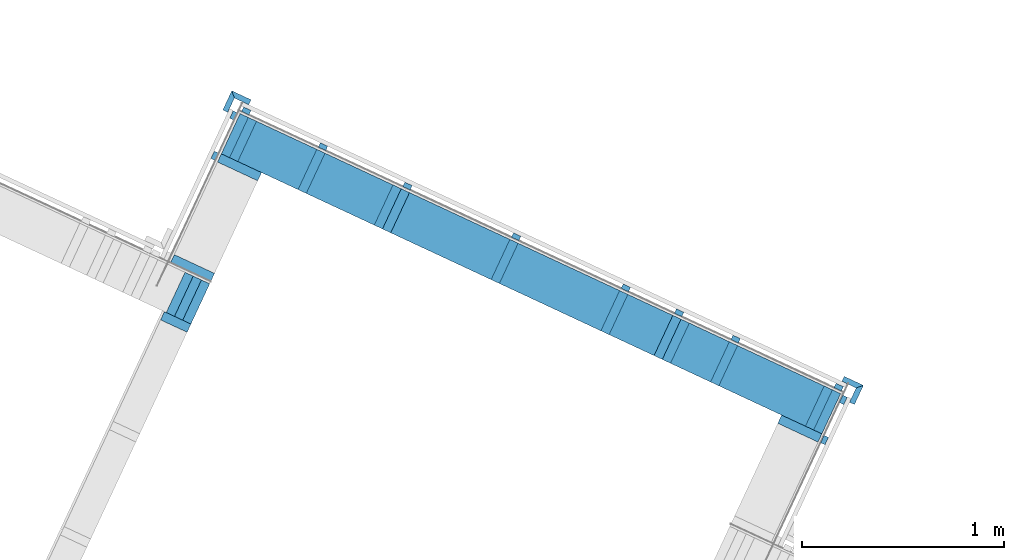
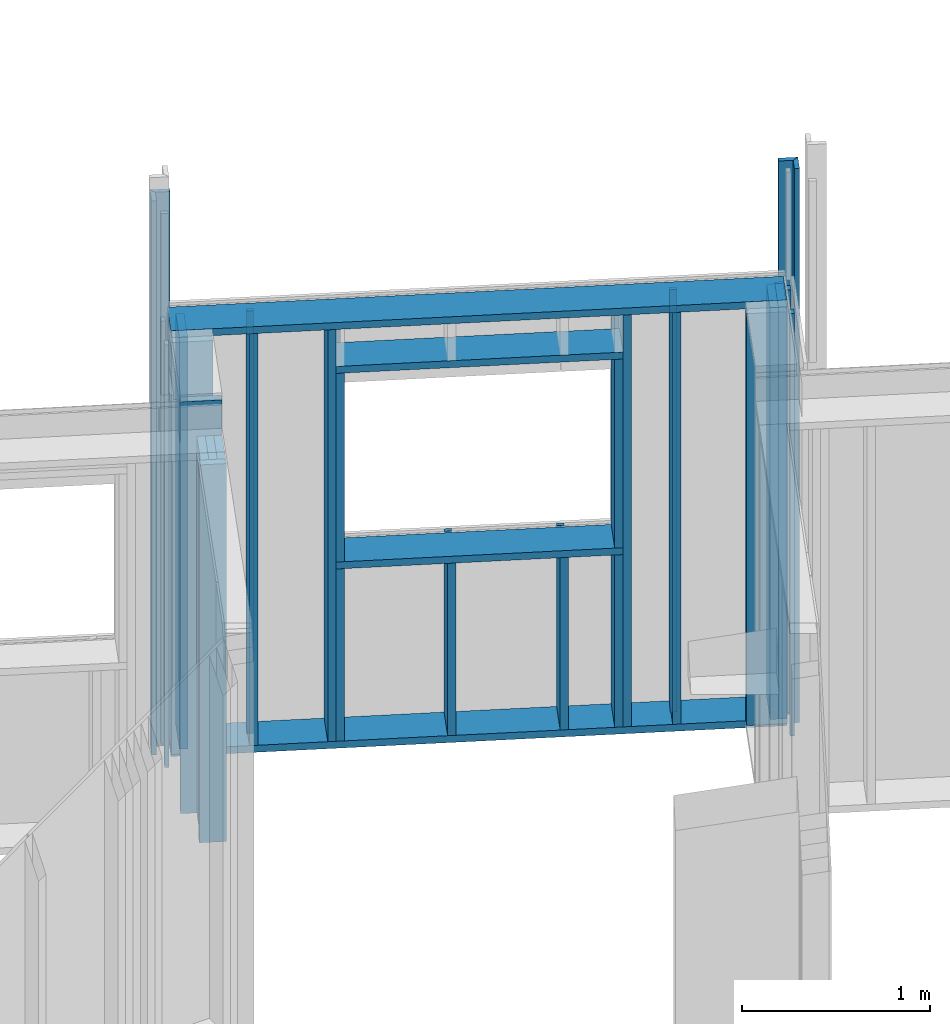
# One storey, part 15 of 34: 41 members.
"""IFC2X3 building model written with IfcOpenShell, lengths in metres."""

from ifc_helpers import new_model, si_unit, direction, frame, origin_with_axes, place, context, subcontext, project, spatial, faceted_brep, material, element, save


model = new_model("IFC2X3")

# Units and contexts
model_context = context("Model", 3, precision=1e-06, world=origin_with_axes(), true_north=direction((0.0, 1.0, 0.0)))
body_context = subcontext(model_context, "Body", "Model", "MODEL_VIEW")
ifc_project = project(units=[si_unit("LENGTHUNIT", "METRE"), si_unit("AREAUNIT", "SQUARE_METRE"), si_unit("VOLUMEUNIT", "CUBIC_METRE"), si_unit("PLANEANGLEUNIT", "RADIAN")], contexts=[model_context])

# Site, building, storey
site_placement = place(None, origin_with_axes())
site = spatial("IfcSite", under=ifc_project, at=site_placement, CompositionType="ELEMENT")
building_placement = place(site_placement, origin_with_axes())
building = spatial("IfcBuilding", under=site, at=building_placement, Name="Building 1", CompositionType="ELEMENT")
storey_placement = place(building_placement, origin_with_axes())
storey = spatial("IfcBuildingStorey", under=building, at=storey_placement, Name="Rez de chaussée", CompositionType="ELEMENT", Elevation=0.0)

# Members
ifc_material_1 = material(Name="Epicéa C24")
member_1_placement = place(storey_placement, frame((10.4424502, 6.9625175, 2.76), z_axis=(0.4226183, 0.9063078, 0.0), x_axis=(0.0, 0.0, -1.0)))
element("IfcMember", 1, at=member_1_placement, inside=storey, material=ifc_material_1, Name="Montant", context=body_context, shape_type="Brep", body=[
    faceted_brep([(2.67, -0.0225, -0.11), (2.67, 0.0225, -0.11), (2.67, 0.0225, 0.11), (2.67, -0.0225, 0.11), (0.0, 0.0225, -0.11), (0.0, 0.0225, 0.11), (0.0, -0.0225, -0.11), (0.0, -0.0225, 0.11)], [[[0, 1, 2, 3]], [[2, 1, 4, 5]], [[1, 0, 6, 4]], [[0, 3, 7, 6]], [[3, 2, 5, 7]], [[7, 5, 4, 6]]]),
])
member_2_placement = place(storey_placement, frame((9.1128528, 7.731475, 2.745), z_axis=(0.4226183, 0.9063078, 0.0), x_axis=(0.0, 0.0, -1.0)))
element("IfcMember", 2, at=member_2_placement, inside=storey, material=ifc_material_1, Name="latte 27/40", context=body_context, shape_type="Brep", body=[
    faceted_brep([(0.0, 0.02, 0.012), (0.0, -0.02, 0.012), (2.74, -0.02, 0.012), (2.74, 0.02, 0.012), (2.74, -0.02, -0.012), (2.74, 0.02, -0.012), (0.0, 0.02, -0.012), (0.0, -0.02, -0.012)], [[[0, 1, 2, 3]], [[3, 2, 4, 5]], [[0, 3, 5, 6]], [[1, 0, 6, 7]], [[7, 6, 5, 4]], [[2, 1, 7, 4]]]),
])
ifc_material_2 = material(Name="NH II")
member_3_placement = place(storey_placement, frame((8.2838482, 8.1693532, -0.08), z_axis=(-0.9063078, 0.4226183, 0.0), x_axis=(0.0, 0.0, 1.0)))
element("IfcMember", 3, at=member_3_placement, inside=storey, material=ifc_material_2, Name="Couvre joint", context=body_context, shape_type="Brep", body=[
    faceted_brep([(0.0, 0.0135, 0.0525), (0.0, -0.0135, 0.0255), (3.5928831, -0.0135, 0.0255), (3.5928831, 0.0135, 0.0525), (0.0, -0.0135, -0.0525), (3.5928831, -0.0135, -0.0525), (0.0, 0.0135, -0.0525), (3.5928831, 0.0135, -0.0525)], [[[0, 1, 2, 3]], [[2, 1, 4, 5]], [[1, 0, 6, 4]], [[3, 2, 5, 7]], [[5, 4, 6, 7]], [[7, 6, 0, 3]]]),
])
member_4_placement = place(storey_placement, frame((9.0557993, 7.6091234, 1.207), z_axis=(0.4226183, 0.9063078, 0.0), x_axis=(0.0, 0.0, -1.0)))
element("IfcMember", 4, at=member_4_placement, inside=storey, material=ifc_material_1, Name="Montant", context=body_context, shape_type="Brep", body=[
    faceted_brep([(1.117, -0.0225, -0.11), (1.117, 0.0225, -0.11), (1.117, 0.0225, 0.11), (1.117, -0.0225, 0.11), (0.0, 0.0225, -0.11), (0.0, 0.0225, 0.11), (0.0, -0.0225, -0.11), (0.0, -0.0225, 0.11)], [[[0, 1, 2, 3]], [[2, 1, 4, 5]], [[1, 0, 6, 4]], [[0, 3, 7, 6]], [[3, 2, 5, 7]], [[7, 5, 4, 6]]]),
])
member_5_placement = place(storey_placement, frame((8.2320201, 8.1504893, -0.08), z_axis=(-0.4226183, -0.9063078, 0.0), x_axis=(0.0, 0.0, 1.0)))
element("IfcMember", 5, at=member_5_placement, inside=storey, material=ifc_material_2, Name="Couvre joint", context=body_context, shape_type="Brep", body=[
    faceted_brep([(0.0, -0.0135, -0.0255), (0.0, 0.0135, -0.0525), (3.5928831, 0.0135, -0.0525), (3.5928831, -0.0135, -0.0255), (0.0, -0.0135, 0.0525), (0.0, 0.0135, 0.0525), (3.5928831, 0.0135, 0.0525), (3.5928831, -0.0135, 0.0525)], [[[0, 1, 2, 3]], [[1, 0, 4, 5]], [[3, 2, 6, 7]], [[0, 3, 7, 4]], [[6, 5, 4, 7]], [[2, 1, 5, 6]]]),
])
member_6_placement = place(storey_placement, frame((11.1795736, 6.4725936, 2.745), z_axis=(0.9063078, -0.4226183, 0.0), x_axis=(0.0, 0.0, -1.0)))
element("IfcMember", 6, at=member_6_placement, inside=storey, material=ifc_material_1, Name="latte 27/40", context=body_context, shape_type="Brep", body=[
    faceted_brep([(2.74, 0.02, 0.012), (2.74, -0.02, 0.012), (2.74, -0.02, -0.012), (2.74, 0.02, -0.012), (0.0, -0.02, -0.012), (0.0, 0.02, -0.012), (0.0, 0.02, 0.012), (0.0, -0.02, 0.012)], [[[0, 1, 2, 3]], [[3, 2, 4, 5]], [[0, 3, 5, 6]], [[1, 0, 6, 7]], [[2, 1, 7, 4]], [[7, 6, 5, 4]]]),
])
member_7_placement = place(storey_placement, frame((11.3190731, 6.7540046, -0.08), z_axis=(0.9063078, -0.4226183, 0.0), x_axis=(0.0, 0.0, 1.0)))
element("IfcMember", 7, at=member_7_placement, inside=storey, material=ifc_material_2, Name="Couvre joint", context=body_context, shape_type="Brep", body=[
    faceted_brep([(0.0, 0.0135, 0.0255), (0.0, -0.0135, 0.0525), (3.5928831, -0.0135, 0.0525), (3.5928831, 0.0135, 0.0255), (0.0, 0.0135, -0.0525), (0.0, -0.0135, -0.0525), (3.5928831, -0.0135, -0.0525), (3.5928831, 0.0135, -0.0525)], [[[0, 1, 2, 3]], [[1, 0, 4, 5]], [[3, 2, 6, 7]], [[6, 5, 4, 7]], [[2, 1, 5, 6]], [[0, 3, 7, 4]]]),
])
member_8_placement = place(storey_placement, frame((11.3379369, 6.7021765, -0.08), z_axis=(-0.4226183, -0.9063078, 0.0), x_axis=(0.0, 0.0, 1.0)))
element("IfcMember", 8, at=member_8_placement, inside=storey, material=ifc_material_2, Name="Couvre joint", context=body_context, shape_type="Brep", body=[
    faceted_brep([(0.0, -0.0135, -0.0525), (0.0, 0.0135, -0.0255), (3.5928831, 0.0135, -0.0255), (3.5928831, -0.0135, -0.0525), (0.0, 0.0135, 0.0525), (3.5928831, 0.0135, 0.0525), (0.0, -0.0135, 0.0525), (3.5928831, -0.0135, 0.0525)], [[[0, 1, 2, 3]], [[2, 1, 4, 5]], [[1, 0, 6, 4]], [[3, 2, 5, 7]], [[7, 6, 0, 3]], [[5, 4, 6, 7]]]),
])
member_9_placement = place(storey_placement, frame((10.4016664, 6.9815353, 2.475), z_axis=(0.4226183, 0.9063078, 0.0), x_axis=(0.0, 0.0, -1.0)))
element("IfcMember", 9, at=member_9_placement, inside=storey, material=ifc_material_1, Name="Montant", context=body_context, shape_type="Brep", body=[
    faceted_brep([(1.223, -0.0225, -0.11), (1.223, 0.0225, -0.11), (1.223, 0.0225, 0.11), (1.223, -0.0225, 0.11), (0.0, 0.0225, -0.11), (0.0, 0.0225, 0.11), (0.0, -0.0225, -0.11), (0.0, -0.0225, 0.11)], [[[0, 1, 2, 3]], [[2, 1, 4, 5]], [[1, 0, 6, 4]], [[0, 3, 7, 6]], [[3, 2, 5, 7]], [[7, 5, 4, 6]]]),
])
member_10_placement = place(storey_placement, frame((8.6942396, 7.9266775, 2.745), z_axis=(0.4226183, 0.9063078, 0.0), x_axis=(0.0, 0.0, -1.0)))
element("IfcMember", 10, at=member_10_placement, inside=storey, material=ifc_material_1, Name="latte 27/40", context=body_context, shape_type="Brep", body=[
    faceted_brep([(0.0, 0.02, 0.012), (0.0, -0.02, 0.012), (2.74, -0.02, 0.012), (2.74, 0.02, 0.012), (2.74, -0.02, -0.012), (2.74, 0.02, -0.012), (0.0, 0.02, -0.012), (0.0, -0.02, -0.012)], [[[0, 1, 2, 3]], [[3, 2, 4, 5]], [[0, 3, 5, 6]], [[1, 0, 6, 7]], [[7, 6, 5, 4]], [[2, 1, 7, 4]]]),
])
member_11_placement = place(storey_placement, frame((10.4220583, 6.9720264, 2.4975), z_axis=(0.4226183, 0.9063078, 0.0), x_axis=(-0.9063078, 0.4226183, 0.0)))
element("IfcMember", 11, at=member_11_placement, inside=storey, material=ifc_material_1, Name="Montant", context=body_context, shape_type="Brep", body=[
    faceted_brep([(1.53, -0.0225, -0.11), (1.53, 0.0225, -0.11), (1.53, 0.0225, 0.11), (1.53, -0.0225, 0.11), (0.0, 0.0225, -0.11), (0.0, -0.0225, -0.11), (0.0, -0.0225, 0.11), (0.0, 0.0225, 0.11)], [[[0, 1, 2, 3]], [[4, 5, 6, 7]], [[6, 5, 0, 3]], [[5, 4, 1, 0]], [[4, 7, 2, 1]], [[7, 6, 3, 2]]]),
])
member_12_placement = place(storey_placement, frame((8.6371861, 7.804326, 2.76), z_axis=(0.4226183, 0.9063078, 0.0), x_axis=(0.0, 0.0, -1.0)))
element("IfcMember", 12, at=member_12_placement, inside=storey, material=ifc_material_1, Name="Montant", context=body_context, shape_type="Brep", body=[
    faceted_brep([(2.67, -0.0225, -0.11), (2.67, 0.0225, -0.11), (2.67, 0.0225, 0.11), (2.67, -0.0225, 0.11), (0.0, 0.0225, -0.11), (0.0, 0.0225, 0.11), (0.0, -0.0225, -0.11), (0.0, -0.0225, 0.11)], [[[0, 1, 2, 3]], [[2, 1, 4, 5]], [[1, 0, 6, 4]], [[0, 3, 7, 6]], [[3, 2, 5, 7]], [[7, 5, 4, 6]]]),
])
for number, where, z_axis, x_axis, name in (
    (13, (10.4587198, 7.1038869, 2.745), (0.4226183, 0.9063078, 0.0), (0.0, 0.0, -1.0), "latte 27/40"),
    (14, (10.7388699, 6.9732507, 2.745), (0.4226183, 0.9063078, 0.0), (0.0, 0.0, -1.0), "latte 27/40"),
):
    element("IfcMember", number, at=place(storey_placement, frame(where, z_axis=z_axis, x_axis=x_axis)), inside=storey, material=ifc_material_1, Name=name, context=body_context, shape_type="Brep", body=[
        faceted_brep([(0.0, 0.02, 0.012), (0.0, -0.02, 0.012), (2.74, -0.02, 0.012), (2.74, 0.02, 0.012), (2.74, -0.02, -0.012), (2.74, 0.02, -0.012), (0.0, 0.02, -0.012), (0.0, -0.02, -0.012)], [[[0, 1, 2, 3]], [[3, 2, 4, 5]], [[0, 3, 5, 6]], [[1, 0, 6, 7]], [[7, 6, 5, 4]], [[2, 1, 7, 4]]]),
    ])
member_13_placement = place(storey_placement, frame((9.0150154, 7.6281413, 2.76), z_axis=(0.4226183, 0.9063078, 0.0), x_axis=(0.0, 0.0, -1.0)))
element("IfcMember", 15, at=member_13_placement, inside=storey, material=ifc_material_1, Name="Montant", context=body_context, shape_type="Brep", body=[
    faceted_brep([(2.67, -0.0225, -0.11), (2.67, 0.0225, -0.11), (2.67, 0.0225, 0.11), (2.67, -0.0225, 0.11), (0.0, 0.0225, -0.11), (0.0, 0.0225, 0.11), (0.0, -0.0225, -0.11), (0.0, -0.0225, 0.11)], [[[0, 1, 2, 3]], [[2, 1, 4, 5]], [[1, 0, 6, 4]], [[0, 3, 7, 6]], [[3, 2, 5, 7]], [[7, 5, 4, 6]]]),
])
member_14_placement = place(storey_placement, frame((9.0557993, 7.6091234, 2.475), z_axis=(0.4226183, 0.9063078, 0.0), x_axis=(0.0, 0.0, -1.0)))
element("IfcMember", 16, at=member_14_placement, inside=storey, material=ifc_material_1, Name="Montant", context=body_context, shape_type="Brep", body=[
    faceted_brep([(1.223, -0.0225, -0.11), (1.223, 0.0225, -0.11), (1.223, 0.0225, 0.11), (1.223, -0.0225, 0.11), (0.0, 0.0225, -0.11), (0.0, 0.0225, 0.11), (0.0, -0.0225, -0.11), (0.0, -0.0225, 0.11)], [[[0, 1, 2, 3]], [[2, 1, 4, 5]], [[1, 0, 6, 4]], [[0, 3, 7, 6]], [[3, 2, 5, 7]], [[7, 5, 4, 6]]]),
])
member_15_placement = place(storey_placement, frame((10.1950853, 7.2268217, 1.252), z_axis=(0.4226183, 0.9063078, 0.0), x_axis=(0.0, 0.0, -1.0)))
element("IfcMember", 17, at=member_15_placement, inside=storey, material=ifc_material_1, Name="latte 27/40", context=body_context, shape_type="Brep", body=[
    faceted_brep([(1.247, 0.02, 0.012), (1.247, -0.02, 0.012), (1.247, -0.02, -0.012), (1.247, 0.02, -0.012), (0.0, -0.02, -0.012), (0.0, 0.02, -0.012), (0.0, -0.02, 0.012), (0.0, 0.02, 0.012)], [[[0, 1, 2, 3]], [[4, 5, 3, 2]], [[6, 4, 2, 1]], [[5, 7, 0, 3]], [[7, 6, 1, 0]], [[5, 4, 6, 7]]]),
])
member_16_placement = place(storey_placement, frame((8.0655738, 7.1570359, 2.54), z_axis=(0.4226183, 0.9063078, 0.0), x_axis=(0.0, 0.0, -1.0)))
element("IfcMember", 18, at=member_16_placement, inside=storey, material=ifc_material_1, Name="Montant", context=body_context, shape_type="Brep", body=[
    faceted_brep([(0.0, 0.0225, 0.11), (0.0, -0.0225, 0.11), (2.45, -0.0225, 0.11), (2.45, 0.0225, 0.11), (2.45, -0.0225, -0.11), (2.45, 0.0225, -0.11), (0.0, -0.0225, -0.11), (0.0, 0.0225, -0.11)], [[[0, 1, 2, 3]], [[4, 5, 3, 2]], [[4, 2, 1, 6]], [[5, 4, 6, 7]], [[3, 5, 7, 0]], [[1, 0, 7, 6]]]),
])
member_17_placement = place(storey_placement, frame((10.4016664, 6.9815353, 1.207), z_axis=(0.4226183, 0.9063078, 0.0), x_axis=(0.0, 0.0, -1.0)))
element("IfcMember", 19, at=member_17_placement, inside=storey, material=ifc_material_1, Name="Montant", context=body_context, shape_type="Brep", body=[
    faceted_brep([(1.117, -0.0225, -0.11), (1.117, 0.0225, -0.11), (1.117, 0.0225, 0.11), (1.117, -0.0225, 0.11), (0.0, 0.0225, -0.11), (0.0, 0.0225, 0.11), (0.0, -0.0225, -0.11), (0.0, -0.0225, 0.11)], [[[0, 1, 2, 3]], [[2, 1, 4, 5]], [[1, 0, 6, 4]], [[0, 3, 7, 6]], [[3, 2, 5, 7]], [[7, 5, 4, 6]]]),
])
member_18_placement = place(storey_placement, frame((10.4220583, 6.9720264, 1.2295), z_axis=(0.4226183, 0.9063078, 0.0), x_axis=(-0.9063078, 0.4226183, 0.0)))
element("IfcMember", 20, at=member_18_placement, inside=storey, material=ifc_material_1, Name="Montant", context=body_context, shape_type="Brep", body=[
    faceted_brep([(1.53, -0.0225, -0.11), (1.53, 0.0225, -0.11), (1.53, 0.0225, 0.11), (1.53, -0.0225, 0.11), (0.0, 0.0225, -0.11), (0.0, -0.0225, -0.11), (0.0, -0.0225, 0.11), (0.0, 0.0225, 0.11)], [[[0, 1, 2, 3]], [[4, 5, 6, 7]], [[6, 5, 0, 3]], [[5, 4, 1, 0]], [[4, 7, 2, 1]], [[7, 6, 3, 2]]]),
])
member_19_placement = place(storey_placement, frame((11.2495744, 6.7351053, 2.745), z_axis=(0.4226183, 0.9063078, 0.0), x_axis=(0.0, 0.0, -1.0)))
element("IfcMember", 21, at=member_19_placement, inside=storey, material=ifc_material_1, Name="latte 27/40", context=body_context, shape_type="Brep", body=[
    faceted_brep([(0.0, 0.02, 0.012), (0.0, -0.02, 0.012), (2.74, -0.02, 0.012), (2.74, 0.02, 0.012), (2.74, -0.02, -0.012), (2.74, 0.02, -0.012), (0.0, 0.02, -0.012), (0.0, -0.02, -0.012)], [[[0, 1, 2, 3]], [[3, 2, 4, 5]], [[0, 3, 5, 6]], [[1, 0, 6, 7]], [[7, 6, 5, 4]], [[2, 1, 7, 4]]]),
])
member_20_placement = place(storey_placement, frame((7.9642615, 7.058081, 2.54), z_axis=(-0.9063078, 0.4226183, 0.0), x_axis=(0.0, 0.0, -1.0)))
element("IfcMember", 22, at=member_20_placement, inside=storey, material=ifc_material_1, Name="Montant", context=body_context, shape_type="Brep", body=[
    faceted_brep([(2.45, -0.0225, -0.0725), (2.45, 0.0225, -0.0725), (2.45, 0.0225, 0.0725), (2.45, -0.0225, 0.0725), (0.0, 0.0225, -0.0725), (0.0, 0.0225, 0.0725), (0.0, -0.0225, -0.0725), (0.0, -0.0225, 0.0725)], [[[0, 1, 2, 3]], [[2, 1, 4, 5]], [[1, 0, 6, 4]], [[0, 3, 7, 6]], [[3, 2, 5, 7]], [[7, 5, 4, 6]]]),
])
member_21_placement = place(storey_placement, frame((8.1579434, 7.8816029, 2.745), z_axis=(-0.9063078, 0.4226183, 0.0), x_axis=(0.0, 0.0, -1.0)))
element("IfcMember", 23, at=member_21_placement, inside=storey, material=ifc_material_1, Name="latte 27/40", context=body_context, shape_type="Brep", body=[
    faceted_brep([(2.74, -0.02, -0.012), (2.74, 0.02, -0.012), (2.74, 0.02, 0.012), (2.74, -0.02, 0.012), (0.0, 0.02, 0.012), (0.0, -0.02, 0.012), (0.0, 0.02, -0.012), (0.0, -0.02, -0.012)], [[[0, 1, 2, 3]], [[3, 2, 4, 5]], [[2, 1, 6, 4]], [[1, 0, 7, 6]], [[6, 7, 5, 4]], [[0, 3, 5, 7]]]),
])
member_22_placement = place(storey_placement, frame((9.5942471, 7.3580411, 1.207), z_axis=(0.4226183, 0.9063078, 0.0), x_axis=(0.0, 0.0, -1.0)))
element("IfcMember", 24, at=member_22_placement, inside=storey, material=ifc_material_1, Name="Montant", context=body_context, shape_type="Brep", body=[
    faceted_brep([(1.117, -0.0225, -0.11), (1.117, 0.0225, -0.11), (1.117, 0.0225, 0.11), (1.117, -0.0225, 0.11), (0.0, 0.0225, -0.11), (0.0, 0.0225, 0.11), (0.0, -0.0225, -0.11), (0.0, -0.0225, 0.11)], [[[0, 1, 2, 3]], [[2, 1, 4, 5]], [[1, 0, 6, 4]], [[0, 3, 7, 6]], [[3, 2, 5, 7]], [[7, 5, 4, 6]]]),
])
member_23_placement = place(storey_placement, frame((11.2725496, 6.6719814, 2.745), z_axis=(0.9063078, -0.4226183, 0.0), x_axis=(0.0, 0.0, -1.0)))
element("IfcMember", 25, at=member_23_placement, inside=storey, material=ifc_material_1, Name="latte chantier", context=body_context, shape_type="Brep", body=[
    faceted_brep([(2.74, 0.02, 0.012), (2.74, -0.02, 0.012), (2.74, -0.02, -0.012), (2.74, 0.02, -0.012), (0.0, -0.02, -0.012), (0.0, 0.02, -0.012), (0.0, 0.02, 0.012), (0.0, -0.02, 0.012)], [[[0, 1, 2, 3]], [[3, 2, 4, 5]], [[0, 3, 5, 6]], [[1, 0, 6, 7]], [[2, 1, 7, 4]], [[7, 6, 5, 4]]]),
])
member_24_placement = place(storey_placement, frame((10.1380318, 7.1044701, 1.207), z_axis=(0.4226183, 0.9063078, 0.0), x_axis=(0.0, 0.0, -1.0)))
element("IfcMember", 26, at=member_24_placement, inside=storey, material=ifc_material_1, Name="Montant", context=body_context, shape_type="Brep", body=[
    faceted_brep([(1.117, -0.0225, -0.11), (1.117, 0.0225, -0.11), (1.117, 0.0225, 0.11), (1.117, -0.0225, 0.11), (0.0, 0.0225, -0.11), (0.0, 0.0225, 0.11), (0.0, -0.0225, -0.11), (0.0, -0.0225, 0.11)], [[[0, 1, 2, 3]], [[2, 1, 4, 5]], [[1, 0, 6, 4]], [[0, 3, 7, 6]], [[3, 2, 5, 7]], [[7, 5, 4, 6]]]),
])
member_25_placement = place(storey_placement, frame((10.6818165, 6.8508992, 2.76), z_axis=(0.4226183, 0.9063078, 0.0), x_axis=(0.0, 0.0, -1.0)))
element("IfcMember", 27, at=member_25_placement, inside=storey, material=ifc_material_1, Name="Montant", context=body_context, shape_type="Brep", body=[
    faceted_brep([(2.67, -0.0225, -0.11), (2.67, 0.0225, -0.11), (2.67, 0.0225, 0.11), (2.67, -0.0225, 0.11), (0.0, 0.0225, -0.11), (0.0, 0.0225, 0.11), (0.0, -0.0225, -0.11), (0.0, -0.0225, 0.11)], [[[0, 1, 2, 3]], [[2, 1, 4, 5]], [[1, 0, 6, 4]], [[0, 3, 7, 6]], [[3, 2, 5, 7]], [[7, 5, 4, 6]]]),
])
member_26_placement = place(storey_placement, frame((8.280295, 7.8245495, 2.76), z_axis=(-0.9063078, 0.4226183, 0.0), x_axis=(0.0, 0.0, -1.0)))
element("IfcMember", 28, at=member_26_placement, inside=storey, material=ifc_material_1, Name="Montant", context=body_context, shape_type="Brep", body=[
    faceted_brep([(2.67, -0.0225, -0.11), (2.67, 0.0225, -0.11), (2.67, 0.0225, 0.11), (2.67, -0.0225, 0.11), (0.0, -0.0225, 0.11), (0.0, -0.0225, -0.11), (0.0, 0.0225, -0.11), (0.0, 0.0225, 0.11)], [[[0, 1, 2, 3]], [[0, 3, 4, 5]], [[1, 0, 5, 6]], [[2, 1, 6, 7]], [[3, 2, 7, 4]], [[4, 7, 6, 5]]]),
])
member_27_placement = place(storey_placement, frame((9.6513006, 7.4803926, 1.252), z_axis=(0.4226183, 0.9063078, 0.0), x_axis=(0.0, 0.0, -1.0)))
element("IfcMember", 29, at=member_27_placement, inside=storey, material=ifc_material_1, Name="latte 27/40", context=body_context, shape_type="Brep", body=[
    faceted_brep([(1.247, 0.02, 0.012), (1.247, -0.02, 0.012), (1.247, -0.02, -0.012), (1.247, 0.02, -0.012), (0.0, -0.02, -0.012), (0.0, 0.02, -0.012), (0.0, -0.02, 0.012), (0.0, 0.02, 0.012)], [[[0, 1, 2, 3]], [[4, 5, 3, 2]], [[6, 4, 2, 1]], [[5, 7, 0, 3]], [[7, 6, 1, 0]], [[5, 4, 6, 7]]]),
])
member_28_placement = place(storey_placement, frame((11.0572221, 6.5296471, 2.76), z_axis=(0.9063078, -0.4226183, 0.0), x_axis=(0.0, 0.0, -1.0)))
element("IfcMember", 30, at=member_28_placement, inside=storey, material=ifc_material_1, Name="Montant", context=body_context, shape_type="Brep", body=[
    faceted_brep([(2.67, -0.0225, -0.11), (2.67, 0.0225, -0.11), (2.67, 0.0225, 0.11), (2.67, -0.0225, 0.11), (0.0, 0.0225, -0.11), (0.0, 0.0225, 0.11), (0.0, -0.0225, -0.11), (0.0, -0.0225, 0.11)], [[[0, 1, 2, 3]], [[2, 1, 4, 5]], [[1, 0, 6, 4]], [[0, 3, 7, 6]], [[3, 2, 5, 7]], [[7, 5, 4, 6]]]),
])
for number, where, z_axis, x_axis, name in (
    (31, (11.2129128, 6.6032449, 2.7825), (-0.4226183, -0.9063078, 0.0), (-0.9063078, 0.4226183, 0.0), "Montant"),
    (32, (11.2129128, 6.6032449, 0.0675), (-0.4226183, -0.9063078, 0.0), (-0.9063078, 0.4226183, 0.0), "Lisse basse"),
):
    element("IfcMember", number, at=place(storey_placement, frame(where, z_axis=z_axis, x_axis=x_axis)), inside=storey, material=ifc_material_1, Name=name, context=body_context, shape_type="Brep", body=[
        faceted_brep([(0.0, -0.0225, -0.11), (0.0, -0.0225, 0.11), (0.0, 0.0225, 0.11), (0.0, 0.0225, -0.11), (3.284, -0.0225, 0.11), (3.284, -0.0225, -0.11), (3.284, 0.0225, -0.11), (3.284, 0.0225, 0.11)], [[[0, 1, 2, 3]], [[4, 5, 6, 7]], [[1, 4, 7, 2]], [[0, 5, 4, 1]], [[3, 6, 5, 0]], [[2, 7, 6, 3]]]),
    ])
member_29_placement = place(storey_placement, frame((11.1925209, 6.6127538, 2.76), z_axis=(0.4226183, 0.9063078, 0.0), x_axis=(0.0, 0.0, -1.0)))
element("IfcMember", 33, at=member_29_placement, inside=storey, material=ifc_material_1, Name="Montant", context=body_context, shape_type="Brep", body=[
    faceted_brep([(2.67, -0.0225, -0.11), (2.67, 0.0225, -0.11), (2.67, 0.0225, 0.11), (2.67, -0.0225, 0.11), (0.0, 0.0225, -0.11), (0.0, 0.0225, 0.11), (0.0, -0.0225, -0.11), (0.0, -0.0225, 0.11)], [[[0, 1, 2, 3]], [[2, 1, 4, 5]], [[1, 0, 6, 4]], [[0, 3, 7, 6]], [[3, 2, 5, 7]], [[7, 5, 4, 6]]]),
])
member_30_placement = place(storey_placement, frame((8.2509194, 8.0809907, 2.745), z_axis=(-0.9063078, 0.4226183, 0.0), x_axis=(0.0, 0.0, -1.0)))
element("IfcMember", 34, at=member_30_placement, inside=storey, material=ifc_material_1, Name="latte chantier", context=body_context, shape_type="Brep", body=[
    faceted_brep([(2.74, -0.02, -0.012), (2.74, 0.02, -0.012), (2.74, 0.02, 0.012), (2.74, -0.02, 0.012), (0.0, 0.02, 0.012), (0.0, -0.02, 0.012), (0.0, 0.02, -0.012), (0.0, -0.02, -0.012)], [[[0, 1, 2, 3]], [[3, 2, 4, 5]], [[2, 1, 6, 4]], [[1, 0, 7, 6]], [[6, 7, 5, 4]], [[0, 3, 5, 7]]]),
])
for number, where, z_axis, x_axis, name in (
    (35, (8.0473402, 7.3249765, 2.76), (0.9063078, -0.4226183, 0.0), (0.0, 0.0, -1.0), "Montant"),
    (36, (11.1517371, 6.6317716, 2.76), (0.4226183, 0.9063078, 0.0), (0.0, 0.0, -1.0), "Montant"),
    (37, (8.25699, 7.9816144, 2.76), (0.4226183, 0.9063078, 0.0), (0.0, 0.0, -1.0), "Montant"),
):
    element("IfcMember", number, at=place(storey_placement, frame(where, z_axis=z_axis, x_axis=x_axis)), inside=storey, material=ifc_material_1, Name=name, context=body_context, shape_type="Brep", body=[
        faceted_brep([(2.67, -0.0225, -0.11), (2.67, 0.0225, -0.11), (2.67, 0.0225, 0.11), (2.67, -0.0225, 0.11), (0.0, 0.0225, -0.11), (0.0, 0.0225, 0.11), (0.0, -0.0225, -0.11), (0.0, -0.0225, 0.11)], [[[0, 1, 2, 3]], [[2, 1, 4, 5]], [[1, 0, 6, 4]], [[0, 3, 7, 6]], [[3, 2, 5, 7]], [[7, 5, 4, 6]]]),
    ])
member_31_placement = place(storey_placement, frame((8.3140434, 8.1039659, 2.745), z_axis=(0.4226183, 0.9063078, 0.0), x_axis=(0.0, 0.0, -1.0)))
element("IfcMember", 38, at=member_31_placement, inside=storey, material=ifc_material_1, Name="latte 27/40", context=body_context, shape_type="Brep", body=[
    faceted_brep([(0.0, 0.02, 0.012), (0.0, -0.02, 0.012), (2.74, -0.02, 0.012), (2.74, 0.02, 0.012), (2.74, -0.02, -0.012), (2.74, 0.02, -0.012), (0.0, 0.02, -0.012), (0.0, -0.02, -0.012)], [[[0, 1, 2, 3]], [[3, 2, 4, 5]], [[0, 3, 5, 6]], [[1, 0, 6, 7]], [[7, 6, 5, 4]], [[2, 1, 7, 4]]]),
])
member_32_placement = place(storey_placement, frame((8.2977738, 7.9625965, 2.76), z_axis=(0.4226183, 0.9063078, 0.0), x_axis=(0.0, 0.0, -1.0)))
element("IfcMember", 39, at=member_32_placement, inside=storey, material=ifc_material_1, Name="Montant", context=body_context, shape_type="Brep", body=[
    faceted_brep([(2.67, -0.0225, -0.11), (2.67, 0.0225, -0.11), (2.67, 0.0225, 0.11), (2.67, -0.0225, 0.11), (0.0, 0.0225, -0.11), (0.0, 0.0225, 0.11), (0.0, -0.0225, -0.11), (0.0, -0.0225, 0.11)], [[[0, 1, 2, 3]], [[2, 1, 4, 5]], [[1, 0, 6, 4]], [[0, 3, 7, 6]], [[3, 2, 5, 7]], [[7, 5, 4, 6]]]),
])
for number, where, z_axis, x_axis, name in (
    (40, (8.02479, 7.1760537, 2.54), (0.4226183, 0.9063078, 0.0), (0.0, 0.0, -1.0), "Montant"),
    (41, (7.9840061, 7.1950715, 2.54), (0.4226183, 0.9063078, 0.0), (0.0, 0.0, -1.0), "Montant"),
):
    element("IfcMember", number, at=place(storey_placement, frame(where, z_axis=z_axis, x_axis=x_axis)), inside=storey, material=ifc_material_1, Name=name, context=body_context, shape_type="Brep", body=[
        faceted_brep([(0.0, 0.0225, 0.11), (0.0, -0.0225, 0.11), (2.45, -0.0225, 0.11), (2.45, 0.0225, 0.11), (2.45, -0.0225, -0.11), (2.45, 0.0225, -0.11), (0.0, -0.0225, -0.11), (0.0, 0.0225, -0.11)], [[[0, 1, 2, 3]], [[4, 5, 3, 2]], [[4, 2, 1, 6]], [[5, 4, 6, 7]], [[3, 5, 7, 0]], [[1, 0, 7, 6]]]),
    ])

save(model, "model.ifc")
